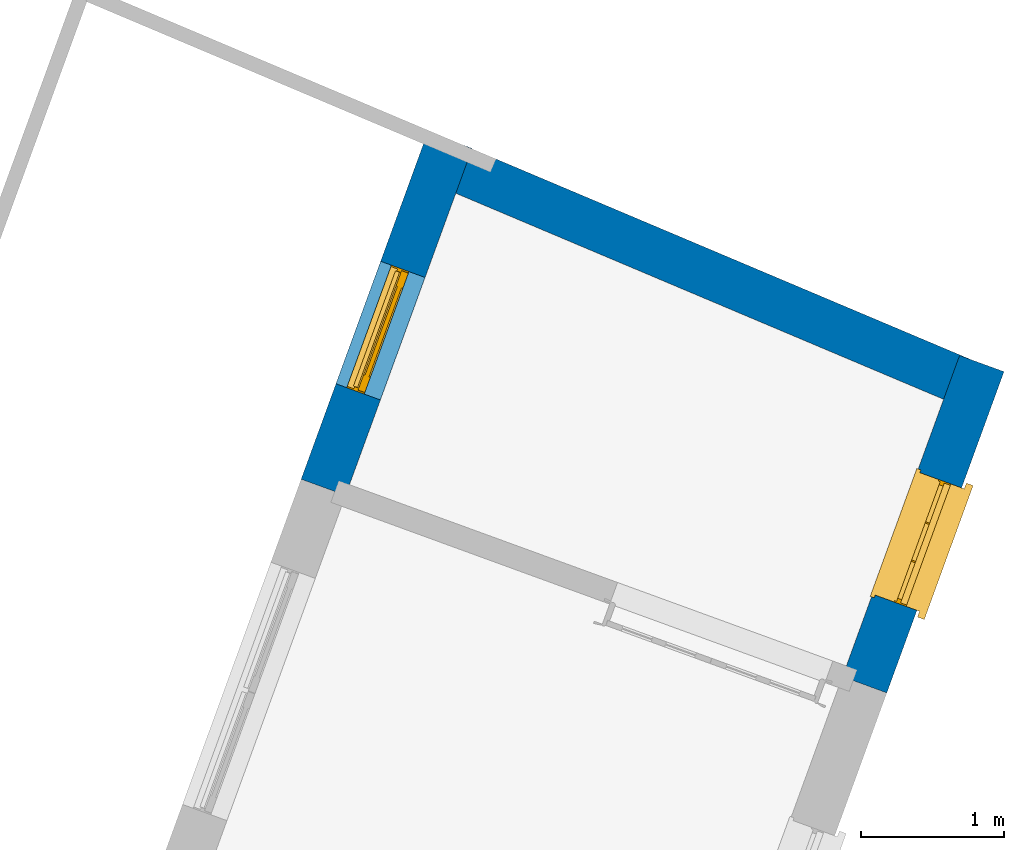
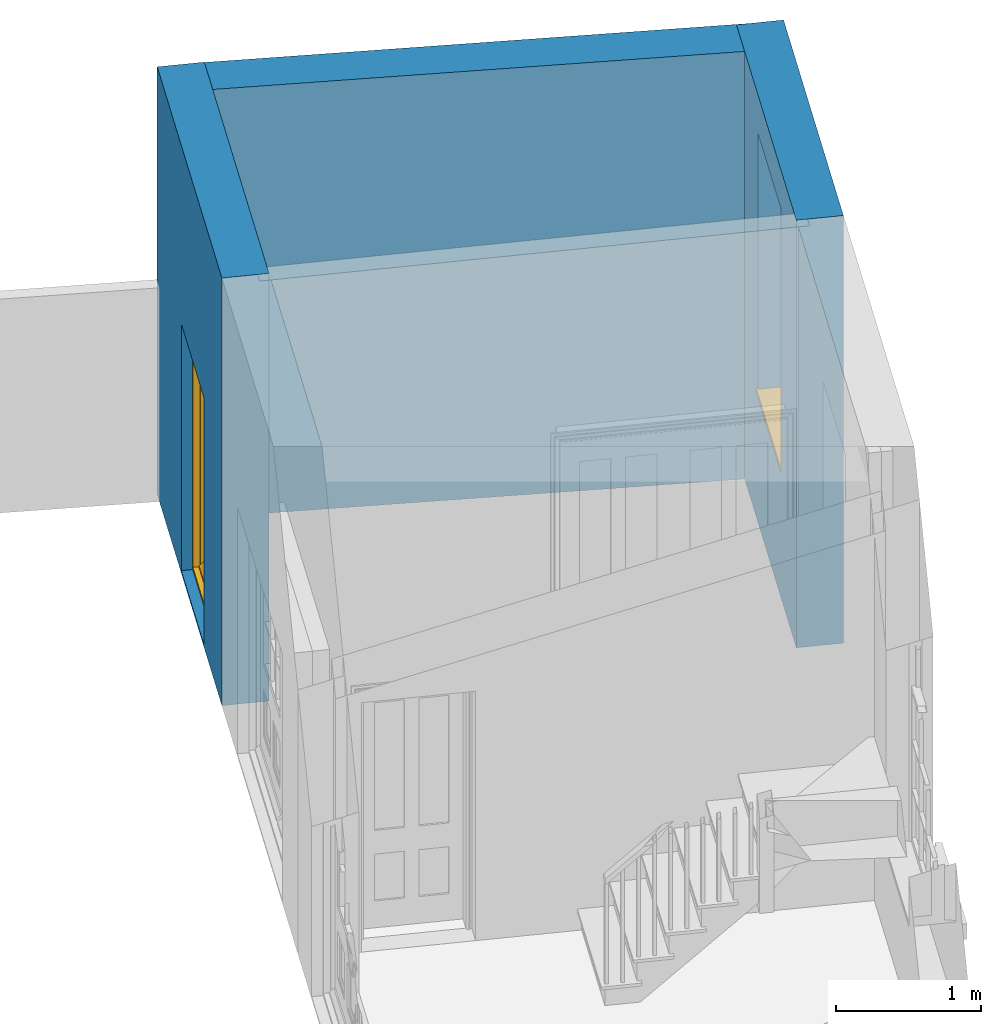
# One storey, part 6 of 6: 3 walls, 1 door, 1 window, 2 openings.
"""IFC4 building model written with IfcOpenShell, lengths in metres."""

from ifc_helpers import new_model, si_unit, frame, origin, origin_with_axes, place, context, subcontext, project, spatial, polyline, outline, extrude, faceted_brep, source, transform, mapped, material, layer, layer_set, layer_usage, type_object, type_shapes, element, fill, save


model = new_model("IFC4")

# Units and contexts
model_context = context("Model", 3, world=origin_with_axes())
body_context = subcontext(model_context, "Body", "Model", "MODEL_VIEW")
ifc_project = project(units=[si_unit("PLANEANGLEUNIT", "RADIAN"), si_unit("MASSUNIT", "GRAM", prefix="KILO"), si_unit("FORCEUNIT", "NEWTON", prefix="KILO"), si_unit("LENGTHUNIT", "METRE"), si_unit("AREAUNIT", "SQUARE_METRE"), si_unit("VOLUMEUNIT", "CUBIC_METRE")], contexts=[model_context, model_context])

# Sites, building, storey
site_1_placement = place(None, origin_with_axes())
site_1 = spatial("IfcSite", under=ifc_project, at=site_1_placement, Name="Tamar")
site_2_placement = place(site_1_placement, origin_with_axes())
site_2 = spatial("IfcSite", under=site_1, at=site_2_placement, Name="Site plot-14", CompositionType="ELEMENT")
building_placement = place(None, origin_with_axes())
building = spatial("IfcBuilding", under=site_2, at=building_placement, Name="Building plot-14", CompositionType="ELEMENT")
storey_placement = place(None, frame((0.0, 0.0, 26.8), z_axis=(0.0, 0.0, 1.0), x_axis=(1.0, 0.0, 0.0)))
storey = spatial("IfcBuildingStorey", under=building, at=storey_placement, Name="plot-14 0", CompositionType="ELEMENT", Elevation=26.8)

# Wall, opening, door
ifc_material_1 = material(Name="Masonry")
ifc_layer_1 = layer(ifc_material_1, 0.33, ventilated=False)
ifc_layer_set_1 = layer_set([ifc_layer_1], Name="exterior_0.08_0.25")
ifc_layer_usage_1 = layer_usage(ifc_layer_set_1, "AXIS2", "POSITIVE", -0.25)
wall_type_1 = type_object("IfcWallType", Name="exterior_0.08_0.25", PredefinedType="SOLIDWALL", material=ifc_layer_set_1)
wall_1_placement = place(storey_placement, frame((252.099215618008, 316.338381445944, 0.0), z_axis=(0.0, 0.0, 1.0), x_axis=(-0.342734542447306, -0.939432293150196, 0.0)))
wall_1 = element("IfcWall", 1, at=wall_1_placement, inside=storey, type_object=wall_type_1, material=ifc_layer_usage_1, Name="exterior", context=body_context, shape_type="SweptSolid", body=[
    extrude(outline(polyline([(-0.250000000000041, 0.0799999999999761), (-0.250000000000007, -0.250000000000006), (2.32934471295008, -0.249999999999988), (2.32934471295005, 0.0799999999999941), (-0.250000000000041, 0.0799999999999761)])), origin_with_axes(), (0.0, 0.0, 1.0), 3.6),
])
opening_1_placement = place(wall_1_placement, frame((0.709672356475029, 0.0, 0.0199999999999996)))
opening_1 = element("IfcOpeningElement", 2, at=opening_1_placement, cuts=wall_1, Name="My Opening", ObjectType="Opening", context=body_context, shape_type="SweptSolid", body=[
    extrude(outline(polyline([(0.0, -0.270000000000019), (0.910000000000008, -0.270000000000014), (0.910000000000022, 1.1), (1.43218770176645e-14, 1.09999999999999), (0.0, -0.270000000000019)])), origin_with_axes(), (0.0, 0.0, 1.0), 2.08),
])
door_type = type_object("IfcDoorType", Name="door_panelled", OperationType="SINGLE_SWING_LEFT", PredefinedType="NOTDEFINED")
shared_shape_1 = source(origin(), body_context, "Body", "Brep", [
    faceted_brep([(0.545, 0.195, 0.265), (0.745, 0.195, 0.265), (0.745, 0.2, 0.265), (0.545, 0.2, 0.265), (0.745, 0.2, 0.58), (0.545, 0.2, 0.58), (0.545, 0.195, 0.58), (0.515, 0.19, 0.235), (0.775, 0.19, 0.235), (0.745, 0.195, 0.58), (0.515, 0.19, 0.61), (0.515, 0.185, 0.235), (0.775, 0.185, 0.235), (0.775, 0.19, 0.61), (0.515, 0.185, 0.61), (0.785, 0.185, 0.225), (0.505, 0.185, 0.225), (0.775, 0.185, 0.61), (0.505, 0.185, 0.62), (0.785, 0.185, 0.62), (0.505, 0.18, 0.225), (0.785, 0.18, 0.225), (0.505, 0.18, 0.62), (0.785, 0.18, 0.62), (0.883, 0.18, 0.075), (0.898, 0.18, 0.075), (0.405, 0.18, 0.62), (0.405, 0.18, 0.225), (0.027, 0.18, 0.075), (0.785, 0.18, 0.82), (0.125, 0.18, 0.82), (0.405, 0.185, 0.62), (0.405, 0.185, 0.225), (0.898, 0.18, 2.068), (0.027, 0.17, 0.075), (0.883, 0.17, 0.075), (0.125, 0.18, 0.225), (0.012, 0.18, 0.075), (0.785, 0.19, 0.82), (0.125, 0.19, 0.82), (0.125, 0.18, 0.62), (0.125, 0.185, 0.62), (0.395, 0.185, 0.61), (0.395, 0.185, 0.235), (0.125, 0.185, 0.225), (0.785, 0.18, 1.895), (0.027, 0.14, 0.045), (0.883, 0.14, 0.045), (0.558333, 0.19, 0.83), (0.351667, 0.19, 0.83), (0.125, 0.18, 1.895), (0.125, 0.19, 1.895), (0.785, 0.19, 1.895), (0.012, 0.18, 2.068), (0.135, 0.185, 0.61), (0.395, 0.19, 0.61), (0.395, 0.19, 0.235), (0.135, 0.185, 0.235), (0.027, 0.14, 0.027), (0.883, 0.14, 0.027), (0.568333, 0.19, 0.83), (0.558333, 0.22, 0.83), (0.351667, 0.22, 0.83), (0.341667, 0.19, 0.83), (0.135, 0.19, 1.185), (0.135, 0.19, 1.53), (0.775, 0.19, 1.53), (0.775, 0.19, 1.185), (0.135, 0.19, 0.61), (0.365, 0.195, 0.58), (0.365, 0.195, 0.265), (0.135, 0.19, 0.235), (0.568333, 0.19, 1.175), (0.558333, 0.19, 1.175), (0.775, 0.19, 0.83), (0.558333, 0.22, 1.175), (0.785, 0.22, 0.82), (0.125, 0.22, 0.82), (0.351667, 0.22, 1.175), (0.351667, 0.19, 1.175), (0.341667, 0.19, 1.175), (0.135, 0.19, 0.83), (0.135, 0.19, 1.175), (0.135, 0.22, 1.185), (0.135, 0.22, 1.53), (0.135, 0.19, 1.54), (0.351667, 0.19, 1.885), (0.558333, 0.19, 1.885), (0.775, 0.22, 1.53), (0.775, 0.22, 1.185), (0.775, 0.19, 1.175), (0.775, 0.19, 1.54), (0.165, 0.195, 0.58), (0.365, 0.2, 0.58), (0.365, 0.2, 0.265), (0.165, 0.195, 0.265), (0.568333, 0.22, 0.83), (0.568333, 0.22, 1.175), (0.568333, 0.19, 1.185), (0.558333, 0.19, 1.185), (0.775, 0.22, 0.83), (0.785, 0.23, 0.82), (0.125, 0.23, 0.82), (0.341667, 0.22, 0.83), (0.341667, 0.22, 1.175), (0.351667, 0.19, 1.185), (0.341667, 0.19, 1.185), (0.135, 0.22, 0.83), (0.341667, 0.22, 1.185), (0.125, 0.22, 1.895), (0.341667, 0.22, 1.53), (0.341667, 0.19, 1.53), (0.135, 0.19, 1.885), (0.341667, 0.19, 1.54), (0.341667, 0.19, 1.885), (0.558333, 0.22, 1.885), (0.351667, 0.22, 1.885), (0.568333, 0.19, 1.885), (0.785, 0.22, 1.895), (0.568333, 0.22, 1.185), (0.568333, 0.19, 1.53), (0.568333, 0.22, 1.53), (0.568333, 0.19, 1.54), (0.775, 0.19, 1.885), (0.165, 0.2, 0.58), (0.165, 0.2, 0.265), (0.775, 0.22, 1.175), (0.558333, 0.19, 1.53), (0.351667, 0.22, 1.185), (0.558333, 0.22, 1.185), (0.505, 0.23, 0.62), (0.405, 0.23, 0.62), (0.125, 0.23, 1.895), (0.785, 0.23, 1.895), (0.351667, 0.19, 1.53), (0.135, 0.22, 1.175), (0.135, 0.22, 1.54), (0.341667, 0.22, 1.54), (0.135, 0.22, 1.885), (0.351667, 0.19, 1.54), (0.558333, 0.22, 1.54), (0.558333, 0.19, 1.54), (0.351667, 0.22, 1.54), (0.775, 0.22, 1.54), (0.568333, 0.22, 1.54), (0.775, 0.22, 1.885), (0.558333, 0.22, 1.53), (0.405, 0.23, 0.225), (0.505, 0.23, 0.225), (0.125, 0.23, 0.62), (0.785, 0.23, 0.62), (0.012, 0.23, 2.068), (0.898, 0.23, 2.068), (0.351667, 0.22, 1.53), (0.341667, 0.22, 1.885), (0.568333, 0.22, 1.885), (0.405, 0.225, 0.225), (0.405, 0.225, 0.62), (0.505, 0.225, 0.62), (0.505, 0.225, 0.225), (0.898, 0.23, 0.027), (0.012, 0.23, 0.027), (0.125, 0.225, 0.62), (0.785, 0.225, 0.62), (0.395, 0.225, 0.235), (0.395, 0.225, 0.61), (0.125, 0.23, 0.225), (0.125, 0.225, 0.225), (0.515, 0.225, 0.61), (0.515, 0.225, 0.235), (0.785, 0.23, 0.225), (0.785, 0.225, 0.225), (0.135, 0.225, 0.61), (0.775, 0.225, 0.61), (0.135, 0.225, 0.235), (0.395, 0.22, 0.235), (0.395, 0.22, 0.61), (0.515, 0.22, 0.61), (0.515, 0.22, 0.235), (0.775, 0.225, 0.235), (0.135, 0.22, 0.61), (0.775, 0.22, 0.61), (0.135, 0.22, 0.235), (0.365, 0.215, 0.265), (0.365, 0.215, 0.58), (0.545, 0.215, 0.58), (0.545, 0.215, 0.265), (0.775, 0.22, 0.235), (0.165, 0.215, 0.58), (0.745, 0.215, 0.58), (0.165, 0.215, 0.265), (0.365, 0.21, 0.58), (0.365, 0.21, 0.265), (0.545, 0.21, 0.58), (0.545, 0.21, 0.265), (0.745, 0.215, 0.265), (0.165, 0.21, 0.58), (0.745, 0.21, 0.58), (0.165, 0.21, 0.265), (0.745, 0.21, 0.265), (0.885, 0.178, 0.025), (0.025, 0.178, 0.025), (0.025, 0.15, 0.025), (0.885, 0.15, 0.025), (0.9, 0.23, 0.025), (0.01, 0.23, 0.025), (0.9, 0.178, 0.025), (0.91, 0.23, 0.0), (0.0, 0.23, 0.0), (0.01, 0.178, 0.025), (0.9, 0.178, 2.07), (0.9, 0.23, 2.07), (0.885, 0.178, 2.055), (0.91, 0.23, 2.08), (0.01, 0.23, 2.07), (0.0, 0.23, 2.08), (0.01, 0.178, 2.07), (0.025, 0.178, 2.055), (0.0, 0.1, 2.08), (0.91, 0.1, 2.08), (0.01, 0.1, 2.07), (0.9, 0.1, 2.07), (0.01, 0.15, 2.07), (0.9, 0.15, 2.07), (0.0, 0.1, 0.0), (0.91, 0.1, 0.0), (0.01, 0.1, 0.025), (0.9, 0.1, 0.025), (0.01, 0.15, 0.025), (0.025, 0.15, 2.055), (0.9, 0.15, 0.025), (0.885, 0.15, 2.055), (0.898, 0.18, 0.027), (0.012, 0.18, 0.027), (0.883, 0.18, 0.027), (0.027, 0.18, 0.027)], [[[0, 1, 2, 3]], [[2, 4, 5, 3]], [[0, 3, 5, 6]], [[1, 0, 7, 8]], [[9, 4, 2, 1]], [[9, 6, 5, 4]], [[0, 6, 10, 7]], [[8, 7, 11, 12]], [[8, 13, 9, 1]], [[13, 10, 6, 9]], [[7, 10, 14, 11]], [[15, 12, 11, 16]], [[12, 17, 13, 8]], [[17, 14, 10, 13]], [[18, 16, 11, 14]], [[15, 19, 17, 12]], [[15, 16, 20, 21]], [[14, 17, 19, 18]], [[16, 18, 22, 20]], [[21, 23, 19, 15]], [[24, 25, 21, 20]], [[23, 22, 18, 19]], [[20, 22, 26, 27]], [[23, 21, 25]], [[28, 24, 20, 27]], [[22, 23, 29]], [[29, 30, 26, 22]], [[27, 26, 31, 32]], [[23, 25, 33, 29]], [[34, 35, 24, 28]], [[28, 27, 36, 37]], [[38, 39, 30, 29]], [[26, 30, 40]], [[26, 40, 41, 31]], [[42, 43, 32, 31]], [[32, 44, 36, 27]], [[33, 45, 29]], [[46, 47, 35, 34]], [[36, 40, 37]], [[39, 38, 48, 49]], [[50, 30, 39, 51]], [[29, 45, 52, 38]], [[53, 37, 40, 30]], [[44, 41, 40, 36]], [[31, 41, 54, 42]], [[43, 42, 55, 56]], [[57, 44, 32, 43]], [[50, 45, 33, 53]], [[47, 46, 58, 59]], [[60, 48, 38]], [[49, 48, 61, 62]], [[49, 63, 39]], [[50, 53, 30]], [[51, 39, 64, 65]], [[45, 50, 51, 52]], [[66, 67, 38, 52]], [[57, 54, 41, 44]], [[42, 54, 68, 55]], [[56, 55, 69, 70]], [[56, 71, 57, 43]], [[60, 72, 73, 48]], [[60, 38, 74]], [[48, 73, 75, 61]], [[76, 77, 62, 61]], [[62, 78, 79, 49]], [[49, 79, 80, 63]], [[63, 81, 39]], [[82, 64, 39]], [[65, 64, 83, 84]], [[85, 51, 65]], [[52, 51, 86, 87]], [[88, 89, 67, 66]], [[90, 38, 67]], [[91, 66, 52]], [[71, 68, 54, 57]], [[55, 68, 92, 69]], [[69, 93, 94, 70]], [[70, 95, 71, 56]], [[96, 97, 72, 60]], [[73, 72, 98, 99]], [[74, 38, 90]], [[100, 96, 60, 74]], [[75, 73, 79, 78]], [[61, 75, 97, 96]], [[101, 102, 77, 76]], [[77, 103, 62]], [[96, 76, 61]], [[103, 104, 78, 62]], [[80, 79, 105, 106]], [[63, 80, 104, 103]], [[81, 63, 103, 107]], [[81, 82, 39]], [[106, 64, 82, 80]], [[106, 108, 83, 64]], [[84, 83, 77, 109]], [[110, 111, 65, 84]], [[112, 51, 85]], [[113, 85, 65, 111]], [[114, 86, 51]], [[115, 87, 86, 116]], [[117, 52, 87]], [[118, 76, 89, 88]], [[119, 98, 67, 89]], [[120, 121, 88, 66]], [[67, 98, 72, 90]], [[91, 122, 120, 66]], [[91, 52, 123]], [[95, 92, 68, 71]], [[69, 92, 124, 93]], [[94, 93, 124, 125]], [[94, 125, 95, 70]], [[72, 97, 126, 90]], [[127, 99, 98, 120]], [[99, 105, 79, 73]], [[74, 90, 126, 100]], [[96, 100, 76]], [[128, 129, 75, 78]], [[97, 75, 129, 119]], [[130, 131, 102, 101]], [[109, 77, 102, 132]], [[133, 101, 76, 118]], [[77, 107, 103]], [[78, 104, 108, 128]], [[111, 106, 105, 134]], [[104, 80, 82, 135]], [[107, 135, 82, 81]], [[110, 108, 106, 111]], [[104, 135, 83, 108]], [[83, 135, 77]], [[136, 84, 109]], [[110, 84, 136, 137]], [[114, 51, 112]], [[85, 136, 138, 112]], [[113, 137, 136, 85]], [[111, 134, 139, 113]], [[86, 114, 113, 139]], [[140, 141, 87, 115]], [[139, 142, 116, 86]], [[109, 118, 115, 116]], [[117, 123, 52]], [[117, 87, 141, 122]], [[126, 89, 76]], [[143, 118, 88]], [[120, 98, 119, 121]], [[119, 89, 126, 97]], [[144, 143, 88, 121]], [[144, 122, 91, 143]], [[127, 120, 122, 141]], [[143, 91, 123, 145]], [[124, 92, 95, 125]], [[146, 129, 99, 127]], [[99, 129, 128, 105]], [[100, 126, 76]], [[121, 119, 129, 146]], [[147, 131, 130, 148]], [[131, 149, 102]], [[130, 101, 150]], [[102, 151, 132]], [[118, 109, 132, 133]], [[101, 133, 152]], [[107, 77, 135]], [[153, 128, 108, 110]], [[134, 105, 128, 153]], [[109, 138, 136]], [[153, 110, 137, 142]], [[154, 114, 112, 138]], [[137, 113, 114, 154]], [[141, 139, 134, 127]], [[141, 140, 142, 139]], [[144, 140, 115, 155]], [[142, 137, 154, 116]], [[155, 115, 118]], [[116, 154, 109]], [[117, 155, 145, 123]], [[122, 144, 155, 117]], [[143, 145, 118]], [[121, 146, 140, 144]], [[146, 127, 134, 153]], [[156, 157, 131, 147]], [[148, 130, 158, 159]], [[148, 160, 161, 147]], [[157, 162, 149, 131]], [[161, 151, 102, 149]], [[101, 152, 160, 150]], [[163, 158, 130, 150]], [[151, 152, 133, 132]], [[154, 138, 109]], [[142, 140, 146, 153]], [[145, 155, 118]], [[157, 156, 164, 165]], [[147, 166, 167, 156]], [[168, 169, 159, 158]], [[170, 148, 159, 171]], [[148, 170, 160]], [[166, 147, 161]], [[172, 162, 157, 165]], [[166, 149, 162, 167]], [[166, 161, 149]], [[150, 160, 170]], [[163, 173, 168, 158]], [[171, 163, 150, 170]], [[174, 164, 156, 167]], [[175, 176, 165, 164]], [[169, 168, 177, 178]], [[171, 159, 169, 179]], [[167, 162, 172, 174]], [[176, 180, 172, 165]], [[179, 173, 163, 171]], [[181, 177, 168, 173]], [[164, 174, 182, 175]], [[183, 184, 176, 175]], [[178, 177, 185, 186]], [[179, 169, 178, 187]], [[174, 172, 180, 182]], [[184, 188, 180, 176]], [[187, 181, 173, 179]], [[189, 185, 177, 181]], [[175, 182, 190, 183]], [[191, 184, 183, 192]], [[185, 193, 194, 186]], [[187, 178, 186, 195]], [[182, 180, 188, 190]], [[191, 196, 188, 184]], [[195, 189, 181, 187]], [[197, 193, 185, 189]], [[183, 190, 198, 192]], [[198, 196, 191, 192]], [[194, 193, 197, 199]], [[195, 186, 194, 199]], [[188, 196, 198, 190]], [[197, 189, 195, 199]], [[200, 201, 202, 203]], [[201, 200, 204, 205]], [[206, 204, 200]], [[204, 207, 208, 205]], [[209, 201, 205]], [[210, 211, 204, 206]], [[206, 200, 212, 210]], [[211, 213, 207, 204]], [[214, 205, 208, 215]], [[216, 217, 201, 209]], [[205, 214, 216, 209]], [[216, 214, 211, 210]], [[210, 212, 217, 216]], [[214, 215, 213, 211]], [[218, 219, 213, 215]], [[219, 218, 220, 221]], [[221, 220, 222, 223]], [[215, 208, 224, 218]], [[225, 224, 208, 207]], [[224, 226, 220, 218]], [[224, 225, 227, 226]], [[219, 225, 207, 213]], [[228, 222, 220, 226]], [[219, 221, 227, 225]], [[226, 227, 203, 202]], [[202, 229, 222, 228]], [[228, 226, 202]], [[227, 221, 223, 230]], [[230, 203, 227]], [[217, 229, 202, 201]], [[231, 223, 222, 229]], [[230, 223, 231, 203]], [[231, 229, 217, 212]], [[212, 200, 203, 231]], [[33, 152, 151, 53]], [[25, 160, 152, 33]], [[161, 37, 53, 151]], [[232, 160, 25]], [[161, 233, 37]], [[160, 232, 234]], [[24, 234, 232, 25]], [[233, 161, 235]], [[37, 233, 235, 28]], [[161, 160, 234, 235]], [[35, 47, 234, 24]], [[28, 235, 46, 34]], [[58, 235, 234, 59]], [[59, 234, 47]], [[58, 46, 235]]]),
])
type_shapes(door_type, [shared_shape_1])
door_placement = place(storey_placement, frame((251.602339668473, 315.764230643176, 0.0199999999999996), z_axis=(0.0, 0.0, 1.0), x_axis=(-0.311888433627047, -0.854883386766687, 0.0)))
door = element("IfcDoor", 3, at=door_placement, inside=storey, type_object=door_type, Name="kitchen outside door", OverallHeight=2.08, OverallWidth=0.91, context=body_context, shape_type="MappedRepresentation", body=[
    mapped(shared_shape_1, transform((0.0, 0.0, 0.0), scale=1.0)),
])
fill(opening_1, door)

# Wall, opening, window
wall_2_placement = place(storey_placement, frame((254.919564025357, 312.829905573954, 0.0), z_axis=(0.0, 0.0, 1.0), x_axis=(0.342734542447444, 0.939432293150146, 0.0)))
wall_2 = element("IfcWall", 4, at=wall_2_placement, inside=storey, type_object=wall_type_1, material=ifc_layer_usage_1, Name="exterior", context=body_context, shape_type="SweptSolid", body=[
    extrude(outline(polyline([(1.58855287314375e-14, 0.0800000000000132), (-7.21491885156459e-14, -0.25), (2.38731250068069, -0.250000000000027), (2.38731250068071, 0.0799999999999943), (1.58855287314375e-14, 0.0800000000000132)])), origin_with_axes(), (0.0, 0.0, 1.0), 3.6),
])
opening_2_placement = place(wall_2_placement, frame((0.613656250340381, 0.0, 1.05)))
opening_2 = element("IfcOpeningElement", 5, at=opening_2_placement, cuts=wall_2, Name="My Opening", ObjectType="Opening", context=body_context, shape_type="SweptSolid", body=[
    extrude(outline(polyline([(0.0, -0.269999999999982), (0.910000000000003, -0.269999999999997), (0.909999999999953, 1.09999999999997), (-5.01820807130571e-14, 1.09999999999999), (0.0, -0.269999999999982)])), origin_with_axes(), (0.0, 0.0, 1.0), 2.23),
])
window_type = type_object("IfcWindowType", Name="sash_big_taller", PartitioningType="DOUBLE_PANEL_HORIZONTAL", PredefinedType="NOTDEFINED")
shared_shape_2 = source(origin(), body_context, "Body", "Brep", [
    faceted_brep([(0.033125, 0.145, 1.385209), (0.01, 0.145, 1.385209), (0.033125, 0.145, 1.786042), (0.876875, 0.145, 1.385209), (0.876875, 0.145, 1.786042), (0.9, 0.145, 1.385209), (0.876875, 0.145, 1.796042), (0.876875, 0.145, 2.196875), (0.9, 0.145, 2.22), (0.033125, 0.145, 2.196875), (0.033125, 0.145, 1.796042), (0.01, 0.145, 2.22), (0.876875, 0.115, 1.786042), (0.876875, 0.115, 1.385209), (0.9, 0.115, 1.347084), (0.033125, 0.115, 2.196875), (0.01, 0.115, 2.22), (0.033125, 0.115, 1.796042), (0.01, 0.115, 1.347084), (0.033125, 0.115, 1.385209), (0.033125, 0.115, 1.786042), (0.876875, 0.115, 2.196875), (0.876875, 0.115, 1.796042), (0.9, 0.115, 2.22), (0.033125, 0.145, 1.347084), (0.01, 0.145, 1.347084), (0.033125, 0.145, 0.94625), (0.876875, 0.145, 1.347084), (0.876875, 0.145, 0.94625), (0.9, 0.145, 1.347084), (0.876875, 0.145, 0.52625), (0.876875, 0.145, 0.125417), (0.9, 0.145, 0.077167), (0.033125, 0.145, 0.125417), (0.033125, 0.145, 0.52625), (0.01, 0.145, 0.077167), (-0.0425, 0.0, 0.01), (-0.0425, -0.05, 0.001667), (0.0, 0.0, 0.01), (0.9525, 0.0, 0.01), (0.91, 0.0, 0.01), (0.9525, -0.05, 0.001667), (-0.02, 0.33, 0.077167), (0.0, 0.33, 0.077167), (-0.02, 0.36, 0.077167), (0.0, 0.19, 0.077167), (0.01, 0.19, 0.077167), (0.91, 0.19, 0.077167), (0.91, 0.33, 0.077167), (0.9, 0.19, 0.077167), (0.93, 0.33, 0.077167), (0.93, 0.36, 0.077167), (0.01, 0.175, 1.385209), (0.9, 0.175, 1.385209), (0.876875, 0.175, 0.125417), (0.876875, 0.175, 0.52625), (0.9, 0.175, 0.077167), (0.876875, 0.175, 0.94625), (0.876875, 0.175, 1.347084), (0.033125, 0.175, 0.125417), (0.01, 0.175, 0.077167), (0.033125, 0.175, 0.52625), (0.033125, 0.175, 1.347084), (0.033125, 0.175, 0.94625), (-0.02, 0.33, 0.052167), (-0.02, 0.36, 0.052167), (0.93, 0.36, 0.052167), (0.93, 0.33, 0.052167), (0.91, 0.33, 0.052167), (0.0, 0.33, 0.052167), (0.91, 0.1, 0.026667), (0.0, 0.1, 0.026667), (-0.0425, -0.05, -0.123333), (0.9525, -0.05, -0.123333), (-0.0425, 0.0, -0.123333), (0.9525, 0.0, -0.123333), (0.01, 0.19, 2.22), (0.9, 0.19, 2.22), (0.0, 0.19, 2.23), (0.91, 0.19, 2.23), (0.01, 0.1, 0.077167), (0.9, 0.1, 0.077167), (0.592292, 0.145, 0.125417), (0.592292, 0.175, 0.125417), (0.317708, 0.175, 0.125417), (0.317708, 0.145, 0.125417), (0.592292, 0.145, 0.53625), (0.317708, 0.145, 0.53625), (0.317708, 0.145, 0.52625), (0.592292, 0.145, 0.52625), (0.592292, 0.175, 0.53625), (0.317708, 0.175, 0.53625), (0.592292, 0.115, 1.796042), (0.592292, 0.145, 1.796042), (0.317708, 0.145, 1.796042), (0.317708, 0.115, 1.796042), (0.317708, 0.115, 1.786042), (0.592292, 0.115, 1.786042), (0.317708, 0.145, 1.786042), (0.592292, 0.145, 1.786042), (0.602292, 0.115, 1.786042), (0.592292, 0.115, 1.385209), (0.602292, 0.115, 1.385209), (0.602292, 0.145, 1.385209), (0.592292, 0.145, 1.385209), (0.602292, 0.145, 1.786042), (0.876875, 0.145, 0.53625), (0.876875, 0.175, 0.53625), (0.602292, 0.175, 0.53625), (0.602292, 0.145, 0.53625), (0.317708, 0.175, 0.52625), (0.307708, 0.175, 0.125417), (0.307708, 0.175, 0.52625), (0.602292, 0.175, 0.52625), (0.602292, 0.175, 0.125417), (0.592292, 0.175, 0.52625), (0.307708, 0.175, 0.53625), (0.033125, 0.175, 0.53625), (0.317708, 0.175, 1.347084), (0.317708, 0.175, 0.94625), (0.307708, 0.175, 0.94625), (0.307708, 0.175, 1.347084), (0.602292, 0.175, 1.347084), (0.602292, 0.175, 0.94625), (0.592292, 0.175, 0.94625), (0.592292, 0.175, 1.347084), (0.307708, 0.145, 0.52625), (0.307708, 0.145, 0.125417), (0.307708, 0.145, 0.53625), (0.033125, 0.145, 0.53625), (0.307708, 0.145, 1.347084), (0.307708, 0.145, 0.94625), (0.592292, 0.145, 1.347084), (0.592292, 0.145, 0.94625), (0.317708, 0.145, 0.94625), (0.317708, 0.145, 1.347084), (0.602292, 0.145, 0.94625), (0.602292, 0.145, 1.347084), (0.602292, 0.145, 0.52625), (0.602292, 0.145, 0.125417), (0.307708, 0.115, 1.796042), (0.307708, 0.115, 1.786042), (0.307708, 0.115, 1.385209), (0.317708, 0.115, 1.385209), (0.317708, 0.115, 2.196875), (0.307708, 0.115, 2.196875), (0.602292, 0.115, 2.196875), (0.592292, 0.115, 2.196875), (0.602292, 0.115, 1.796042), (0.602292, 0.145, 1.796042), (0.307708, 0.145, 1.796042), (0.307708, 0.145, 2.196875), (0.317708, 0.145, 2.196875), (0.592292, 0.145, 2.196875), (0.602292, 0.145, 2.196875), (0.307708, 0.145, 1.786042), (0.317708, 0.145, 1.385209), (0.307708, 0.145, 1.385209), (0.876875, 0.175, 0.93625), (0.033125, 0.175, 0.93625), (0.033125, 0.145, 0.93625), (0.876875, 0.145, 0.93625), (0.91, 0.1, 2.23), (0.9, 0.1, 2.22), (0.01, 0.1, 2.22), (0.0, 0.1, 2.23), (0.91, 0.0, 0.0), (0.0, 0.0, 0.0), (0.91, 0.33, 0.0), (0.0, 0.33, 0.0), (0.317708, 0.145, 0.93625), (0.592292, 0.145, 0.93625), (0.317708, 0.175, 0.93625), (0.307708, 0.175, 0.93625), (0.602292, 0.175, 0.93625), (0.592292, 0.175, 0.93625), (0.307708, 0.145, 0.93625), (0.602292, 0.145, 0.93625)], [[[0, 1, 2]], [[3, 4, 5]], [[6, 7, 8]], [[9, 10, 11]], [[12, 13, 14]], [[15, 16, 17]], [[18, 19, 20]], [[21, 22, 23]], [[24, 25, 26]], [[27, 28, 29]], [[30, 31, 32]], [[33, 34, 35]], [[14, 27, 29]], [[25, 24, 18]], [[36, 37, 38]], [[39, 40, 41]], [[42, 43, 44]], [[45, 46, 43]], [[47, 48, 49]], [[50, 51, 48]], [[1, 0, 52]], [[5, 53, 3]], [[54, 55, 56]], [[57, 58, 53]], [[59, 60, 61]], [[62, 63, 52]], [[48, 43, 46, 49]], [[51, 44, 43, 48]], [[64, 42, 44, 65]], [[65, 44, 51, 66]], [[66, 51, 50, 67]], [[65, 66, 68, 69]], [[60, 56, 49, 46]], [[70, 71, 38, 40]], [[37, 41, 40, 38]], [[37, 72, 73, 41]], [[74, 75, 73, 72]], [[8, 11, 76, 77]], [[76, 78, 79, 77]], [[32, 35, 80, 81]], [[81, 80, 71, 70]], [[82, 83, 84, 85]], [[86, 87, 88, 89]], [[86, 90, 91, 87]], [[92, 93, 94, 95]], [[92, 95, 96, 97]], [[96, 98, 99, 97]], [[100, 97, 101, 102]], [[103, 104, 99, 105]], [[97, 99, 104, 101]], [[102, 103, 105, 100]], [[106, 107, 108, 109]], [[110, 84, 111, 112]], [[113, 114, 83, 115]], [[116, 112, 61, 117]], [[90, 115, 110, 91]], [[118, 119, 120, 121]], [[122, 123, 124, 125]], [[113, 108, 107, 55]], [[126, 112, 111, 127]], [[34, 61, 112, 126]], [[89, 115, 83, 82]], [[88, 110, 115, 89]], [[85, 84, 110, 88]], [[128, 116, 117, 129]], [[130, 121, 120, 131]], [[132, 125, 124, 133]], [[134, 119, 118, 135]], [[136, 123, 122, 137]], [[138, 113, 55, 30]], [[139, 114, 113, 138]], [[138, 30, 106, 109]], [[88, 126, 127, 85]], [[138, 89, 82, 139]], [[137, 132, 133, 136]], [[128, 129, 34, 126]], [[135, 130, 131, 134]], [[140, 17, 20, 141]], [[96, 141, 142, 143]], [[144, 145, 140, 95]], [[146, 147, 92, 148]], [[100, 12, 22, 148]], [[149, 6, 4, 105]], [[94, 150, 151, 152]], [[149, 93, 153, 154]], [[99, 98, 94, 93]], [[155, 2, 10, 150]], [[156, 157, 155, 98]], [[141, 155, 157, 142]], [[20, 2, 155, 141]], [[143, 156, 98, 96]], [[140, 150, 10, 17]], [[145, 151, 150, 140]], [[147, 153, 93, 92]], [[95, 94, 152, 144]], [[22, 6, 149, 148]], [[148, 149, 154, 146]], [[100, 105, 4, 12]], [[109, 86, 89, 138]], [[108, 113, 115, 90]], [[91, 110, 112, 116]], [[87, 128, 126, 88]], [[97, 100, 148, 92]], [[141, 96, 95, 140]], [[98, 155, 150, 94]], [[105, 99, 93, 149]], [[143, 101, 104, 156]], [[135, 118, 125, 132]], [[144, 152, 153, 147]], [[127, 111, 59, 33]], [[15, 9, 151, 145]], [[146, 154, 7, 21]], [[31, 54, 114, 139]], [[36, 74, 72, 37]], [[39, 41, 73, 75]], [[18, 14, 101, 143]], [[23, 16, 144, 147]], [[83, 56, 60, 84]], [[52, 53, 125, 118]], [[53, 52, 156, 104]], [[11, 8, 153, 152]], [[14, 18, 135, 132]], [[2, 1, 11, 10]], [[8, 5, 4, 6]], [[57, 53, 56, 158]], [[60, 52, 63, 159]], [[26, 25, 35, 160]], [[32, 29, 28, 161]], [[14, 23, 22, 12]], [[18, 20, 17, 16]], [[19, 0, 2, 20]], [[17, 10, 9, 15]], [[12, 4, 3, 13]], [[21, 7, 6, 22]], [[27, 58, 57, 28]], [[30, 55, 54, 31]], [[33, 59, 61, 34]], [[26, 63, 62, 24]], [[5, 8, 77, 53]], [[76, 11, 1, 52]], [[46, 45, 78, 76]], [[49, 77, 79, 47]], [[70, 162, 163, 81]], [[71, 80, 164, 165]], [[19, 142, 157, 0]], [[102, 13, 3, 103]], [[121, 130, 24, 62]], [[29, 32, 81, 14]], [[80, 35, 25, 18]], [[60, 46, 76, 52]], [[77, 49, 56, 53]], [[23, 14, 81, 163]], [[16, 164, 80, 18]], [[35, 85, 127]], [[127, 33, 35]], [[139, 82, 32]], [[32, 31, 139]], [[32, 82, 85, 35]], [[102, 101, 14]], [[14, 13, 102]], [[18, 143, 142]], [[142, 19, 18]], [[146, 21, 23]], [[23, 147, 146]], [[16, 15, 145]], [[145, 144, 16]], [[11, 152, 151]], [[151, 9, 11]], [[154, 153, 8]], [[8, 7, 154]], [[23, 163, 164, 16]], [[162, 165, 164, 163]], [[52, 118, 121]], [[121, 62, 52]], [[125, 53, 122]], [[58, 122, 53]], [[27, 137, 122, 58]], [[56, 83, 114]], [[114, 54, 56]], [[111, 84, 60]], [[60, 59, 111]], [[137, 27, 14]], [[14, 132, 137]], [[130, 135, 18]], [[18, 24, 130]], [[157, 156, 52]], [[52, 0, 157]], [[103, 3, 53]], [[53, 104, 103]], [[79, 78, 165, 162]], [[78, 45, 71, 165]], [[162, 70, 47, 79]], [[166, 75, 74, 167]], [[68, 66, 67]], [[48, 68, 67, 50]], [[69, 64, 65]], [[42, 64, 69, 43]], [[69, 68, 168, 169]], [[70, 68, 48, 47]], [[166, 168, 68, 70]], [[43, 69, 71, 45]], [[69, 169, 167, 71]], [[168, 166, 167, 169]], [[38, 167, 74, 36]], [[71, 167, 38]], [[39, 75, 166, 40]], [[40, 166, 70]], [[133, 134, 170, 171]], [[133, 124, 119, 134]], [[28, 57, 123, 136]], [[172, 91, 116, 173]], [[174, 108, 90, 175]], [[120, 173, 159, 63]], [[124, 175, 172, 119]], [[174, 123, 57, 158]], [[176, 173, 116, 128]], [[160, 159, 173, 176]], [[171, 175, 90, 86]], [[170, 172, 175, 171]], [[87, 91, 172, 170]], [[131, 120, 63, 26]], [[177, 174, 158, 161]], [[109, 108, 174, 177]], [[177, 161, 28, 136]], [[170, 176, 128, 87]], [[177, 171, 86, 109]], [[131, 26, 160, 176]], [[136, 133, 171, 177]], [[123, 174, 175, 124]], [[119, 172, 173, 120]], [[134, 131, 176, 170]], [[129, 117, 159, 160]], [[161, 158, 107, 106]], [[35, 34, 129]], [[35, 129, 160]], [[32, 106, 30]], [[32, 161, 106]], [[56, 55, 107]], [[56, 107, 158]], [[60, 117, 61]], [[60, 159, 117]]]),
])
type_shapes(window_type, [shared_shape_2])
window_placement = place(storey_placement, frame((255.383531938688, 313.313855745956, 1.05), z_axis=(0.0, 0.0, 1.0), x_axis=(0.311888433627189, 0.85488338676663, 0.0)))
window = element("IfcWindow", 6, at=window_placement, inside=storey, type_object=window_type, Name="kitchen street window", OverallHeight=2.23, OverallWidth=0.91, context=body_context, shape_type="MappedRepresentation", body=[
    mapped(shared_shape_2, transform((0.0, 0.0, 0.0), scale=1.0)),
])
fill(opening_2, window)

# Wall
ifc_material_2 = material(Name="Masonry")
ifc_layer_2 = layer(ifc_material_2, 0.33, ventilated=False)
ifc_layer_set_2 = layer_set([ifc_layer_2], Name="party_0.08_0.25")
ifc_layer_usage_2 = layer_usage(ifc_layer_set_2, "AXIS2", "POSITIVE", -0.25)
wall_type_2 = type_object("IfcWallType", Name="party_0.08_0.25", PredefinedType="SOLIDWALL", material=ifc_layer_set_2)
wall_3_placement = place(storey_placement, frame((255.652094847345, 314.837765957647, 0.0), z_axis=(0.0, 0.0, 1.0), x_axis=(-0.921202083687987, 0.389084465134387, 0.0)))
element("IfcWall", 7, at=wall_3_placement, inside=storey, type_object=wall_type_2, material=ifc_layer_usage_2, Name="party", context=body_context, shape_type="SweptSolid", body=[
    extrude(outline(polyline([(1.46420789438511e-14, 0.0799999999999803), (9.89629300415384e-15, -0.250000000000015), (3.85678592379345, -0.250000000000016), (3.85678592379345, 0.0799999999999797), (1.46420789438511e-14, 0.0799999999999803)])), origin_with_axes(), (0.0, 0.0, 1.0), 3.6),
])

save(model, "model.ifc")
